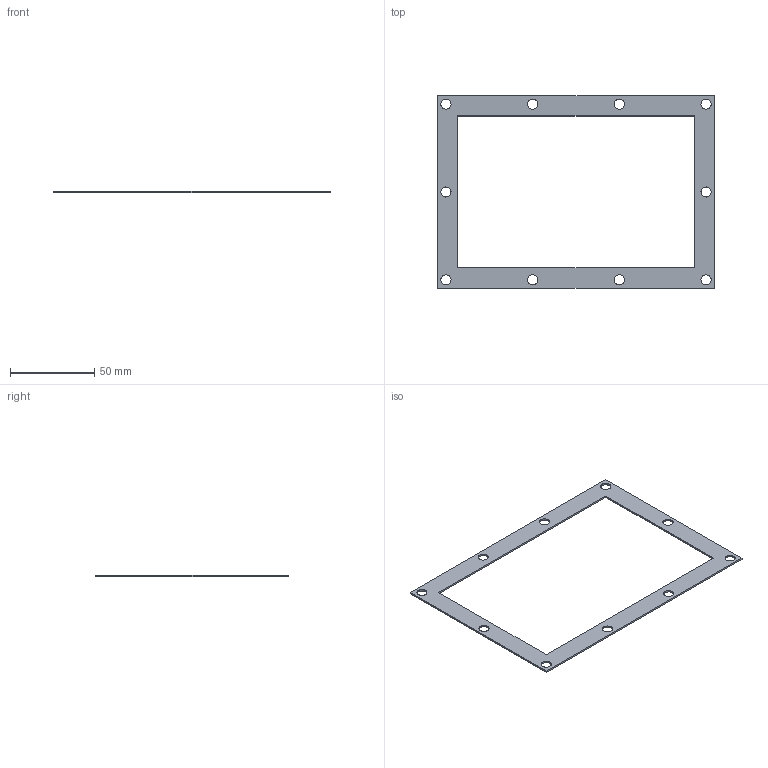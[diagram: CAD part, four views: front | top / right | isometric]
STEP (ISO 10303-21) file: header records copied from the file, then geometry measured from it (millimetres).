
FILE_DESCRIPTION(/* description */ (''),/* implementation_level */ '2;1');
FILE_NAME(/* name */ 'G:\YandexDisk\Работа\Inventor\Универ\ОАП\Лабораторные работы\ЛР6 Создание сборок\Редуктор\stp\Прокладка 8.stp',/* time_stamp */ '2023-11-17T06:37:02+03:00',/* author */ ('34740'),/* organization */ (''),/* preprocessor_version */ 'ST-DEVELOPER v18.1',/* originating_system */ 'Autodesk Inventor 2022',/* authorisation */ '');
FILE_SCHEMA (('AUTOMOTIVE_DESIGN { 1 0 10303 214 3 1 1 }'));
Length unit declared in the file: millimetre
Products named in the file (1): Прокладка 8
Bounding box: 164 x 114 x 1 mm (x, y, z)
Volume: 5813.3 mm3; surface area: 12831 mm2
Topology: 1 solids, 1 shells, 20 faces, 54 edges, 36 vertices
Faces by surface type: cylinder 10, plane 10
Full cylindrical faces by diameter (mm): 6 x10
Entity records: 723 total; most frequent: DIRECTION 116, CARTESIAN_POINT 111, ORIENTED_EDGE 108, EDGE_CURVE 54, EDGE_LOOP 42, AXIS2_PLACEMENT_3D 41, VERTEX_POINT 36, LINE 34
